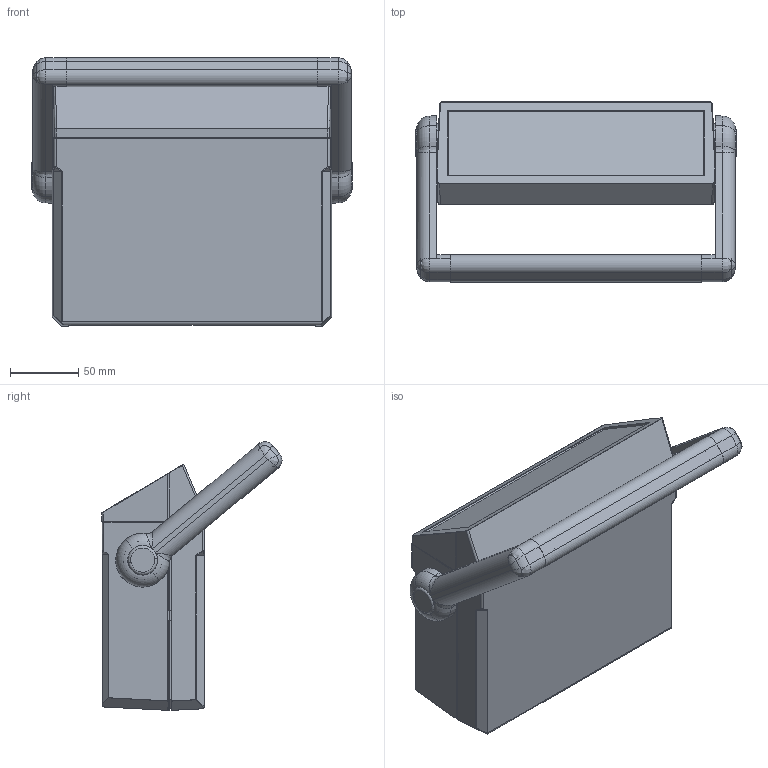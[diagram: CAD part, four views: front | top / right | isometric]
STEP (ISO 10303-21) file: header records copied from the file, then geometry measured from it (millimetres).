
FILE_DESCRIPTION (( 'STEP AP214' ), '1' );
FILE_NAME ('WTM127S-W-Handle.STEP', '2020-12-16T20:33:34', ( 'Rudy' ), ( '' ), 'SwSTEP 2.0', 'SolidWorks 2016', '' );
FILE_SCHEMA (( 'AUTOMOTIVE_DESIGN' ));
Length unit declared in the file: inch
Products named in the file (11): WTM Handle Assembly; Handle ; Handle Button; Handle Locator; WTL Handle; Connector; WTM 127 Endplate; WTM slope panel; WTM-high; WTM-short; WTM127S-W-Handle
Assembly tree (11 placements, depth 4):
  WTM127S-W-Handle
    WTM-short
    WTM-high
    WTM slope panel
    WTM 127 Endplate
    WTM Handle Assembly
      Connector
      Handle   x2
        WTL Handle
        Handle Locator
        Handle Button
Bounding box: 235.42 x 132.16 x 197.21 mm (x, y, z)
Volume: 449928.7 mm3; surface area: 348669 mm2
Topology: 13 solids, 13 shells, 2089 faces, 5556 edges, 3581 vertices
Faces by surface type: plane 1280, cylinder 480, torus 164, bspline 96, cone 66, sphere 3
Entity records: 52023 total; most frequent: CARTESIAN_POINT 12143, ORIENTED_EDGE 8598, DIRECTION 7715, EDGE_CURVE 4299, LINE 2935, VECTOR 2935, VERTEX_POINT 2776, AXIS2_PLACEMENT_3D 2390
